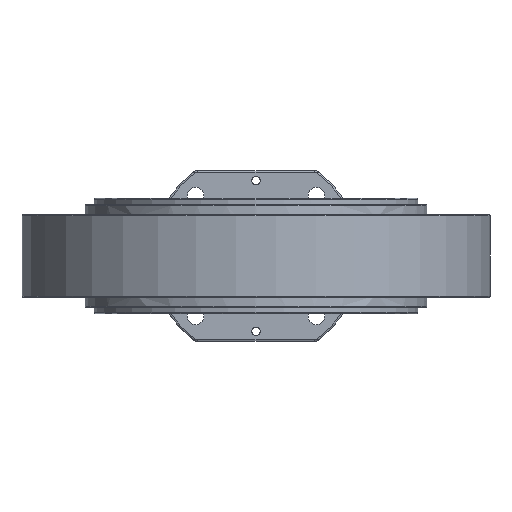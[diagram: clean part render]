
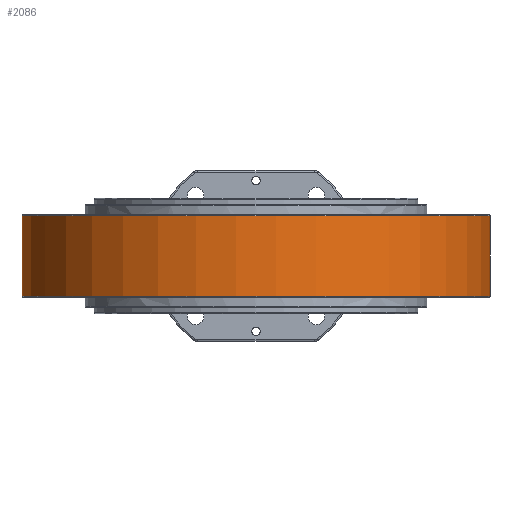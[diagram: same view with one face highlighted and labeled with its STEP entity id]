
A CAD part, front view. The second image highlights one B-rep face of the part: STEP entity #2086.
In plain terms, the highlighted cylindrical face has radius 140 mm (diameter 280 mm), a partial arc.
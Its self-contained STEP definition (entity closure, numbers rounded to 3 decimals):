
#2086=ADVANCED_FACE('',(#5569),#5571,.T.);
#5569=FACE_BOUND('',#5570,.T.);
#5570=EDGE_LOOP('',(#8698,#8699,#8700,#8701));
#5571=CYLINDRICAL_SURFACE('',#5572,140.);
#5572=AXIS2_PLACEMENT_3D('',#5573,#5574,#5575);
#5573=CARTESIAN_POINT('',(0.,0.,0.));
#5574=DIRECTION('',(0.,0.,1.));
#5575=DIRECTION('',(0.,-1.,0.));
#8698=ORIENTED_EDGE('',*,*,#10237,.F.);
#8699=ORIENTED_EDGE('',*,*,#10405,.F.);
#8700=ORIENTED_EDGE('',*,*,#10315,.F.);
#8701=ORIENTED_EDGE('',*,*,#10312,.F.);
#10237=EDGE_CURVE('',#11635,#11638,#11639,.T.);
#10312=EDGE_CURVE('',#11638,#11762,#11763,.T.);
#10315=EDGE_CURVE('',#11762,#11766,#11767,.T.);
#10405=EDGE_CURVE('',#11766,#11635,#11910,.T.);
#11635=VERTEX_POINT('',#17471);
#11638=VERTEX_POINT('',#17480);
#11639=CIRCLE('',#17481,140.);
#11762=VERTEX_POINT('',#19083);
#11763=LINE('',#19084,#19085);
#11766=VERTEX_POINT('',#19095);
#11767=CIRCLE('',#19096,140.);
#11910=LINE('',#20854,#20855);
#17471=CARTESIAN_POINT('',(-84.652,111.508,24.));
#17480=CARTESIAN_POINT('',(84.652,111.508,24.));
#17481=AXIS2_PLACEMENT_3D('',#17482,#17483,#17484);
#17482=CARTESIAN_POINT('',(0.,0.,24.));
#17483=DIRECTION('',(0.,0.,1.));
#17484=DIRECTION('',(-0.605,0.796,0.));
#19083=CARTESIAN_POINT('',(84.652,111.508,-24.));
#19084=CARTESIAN_POINT('',(84.652,111.508,24.));
#19085=VECTOR('',#19086,1.);
#19086=DIRECTION('',(0.,0.,-1.));
#19095=CARTESIAN_POINT('',(-84.652,111.508,-24.));
#19096=AXIS2_PLACEMENT_3D('',#19097,#19098,#19099);
#19097=CARTESIAN_POINT('',(0.,0.,-24.));
#19098=DIRECTION('',(0.,0.,-1.));
#19099=DIRECTION('',(0.605,0.796,0.));
#20854=CARTESIAN_POINT('',(-84.652,111.508,-24.));
#20855=VECTOR('',#20856,1.);
#20856=DIRECTION('',(0.,0.,1.));
